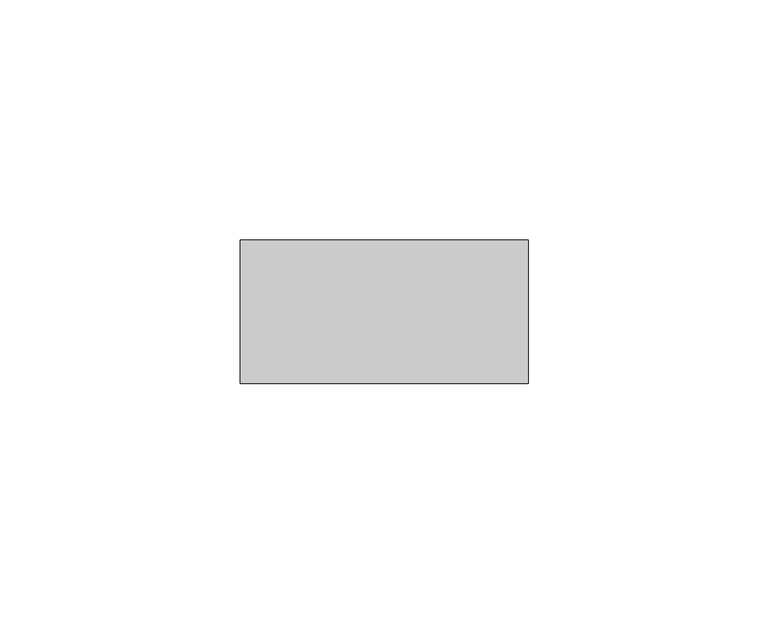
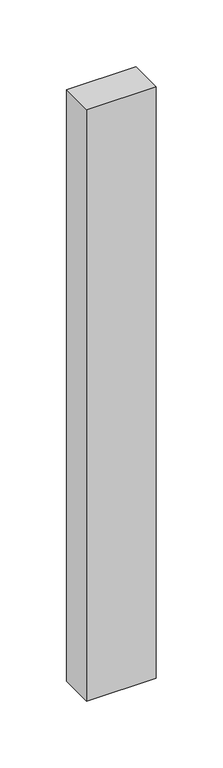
"""IFC4 building model written with IfcOpenShell, lengths in millimetres: member geometry, Прямоугольный импост : Квадрат 30 мм."""

from ifc_helpers import new_model, si_unit, frame, origin, place, context, project, spatial, polyline, outline, extrude, source, transform, mapped, element, save


def member_8012c22a(model_context):
    return source(origin(), model_context, "Body", "SweptSolid", [
        extrude(outline(polyline([(30.0, 15.0), (30.0, -15.0), (-30.0, -15.0), (-30.0, 15.0), (30.0, 15.0)])), frame((0.0, 0.0, -540.0), z_axis=(0.0, 0.0, 1.0), x_axis=(1.0, 0.0, 0.0)), (0.0, 0.0, 1.0), 540.0),
    ])


if __name__ == "__main__":
    model = new_model("IFC4")
    model_context = context("Model", 3, world=origin())
    ifc_project = project(units=[si_unit("LENGTHUNIT", "METRE", prefix="MILLI")], contexts=[model_context])
    site = spatial("IfcSite", under=ifc_project)
    building = spatial("IfcBuilding", under=site)
    placement = place(None, origin())
    member_shape = member_8012c22a(model_context)
    element("IfcMember", 1, ObjectType="Прямоугольный импост : Квадрат 30 мм", at=placement, inside=building, context=model_context, shape_type="MappedRepresentation", body=[
        mapped(member_shape, transform((0.0, 0.0, 0.0), x_axis=(1.0, 0.0, 0.0), y_axis=(0.0, 1.0, 0.0), z_axis=(0.0, 0.0, 1.0))),
    ])
    save(model, "model.ifc")
